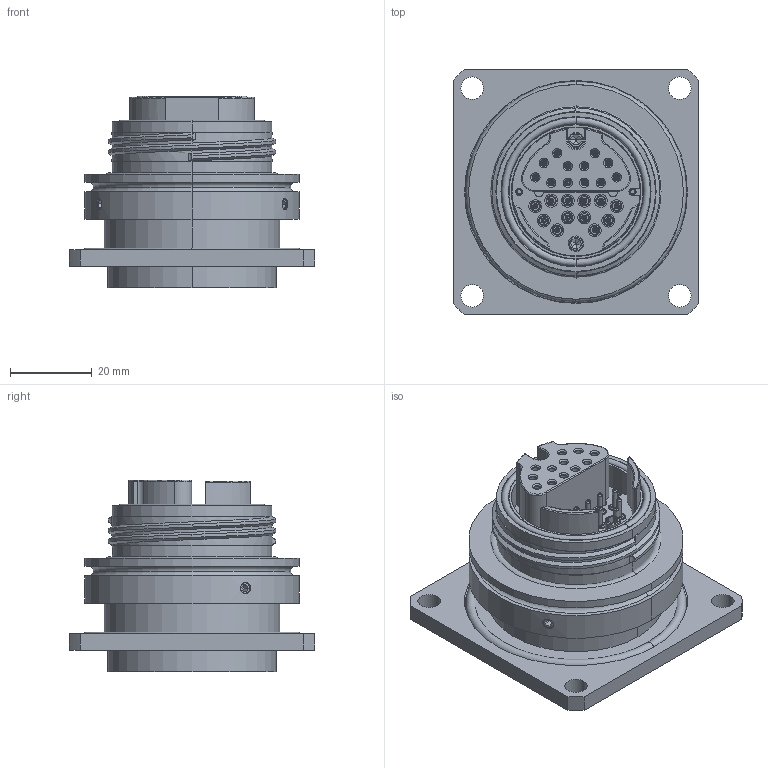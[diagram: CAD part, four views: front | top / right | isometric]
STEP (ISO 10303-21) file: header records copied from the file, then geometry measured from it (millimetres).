
FILE_DESCRIPTION (( 'STEP AP214' ), '1' );
FILE_NAME ('QFOCA3-RGFX-24X-X-S0X.STEP', '2025-08-05T21:55:24', ( '' ), ( '' ), 'SwSTEP 2.0', 'SolidWorks 2024', '' );
FILE_SCHEMA (( 'AUTOMOTIVE_DESIGN' ));
Length unit declared in the file: inch
Products named in the file (1): QFOCA3-RGFX-24X-X-S0X
Bounding box: 60.2 x 60.2 x 46.99 mm (x, y, z)
Volume: 53648.6 mm3; surface area: 30268.8 mm2
Topology: 17 solids, 28 shells, 1474 faces, 3268 edges, 1976 vertices
Faces by surface type: cylinder 580, cone 306, plane 300, torus 272, bspline 16
Entity records: 46643 total; most frequent: CARTESIAN_POINT 12760, DIRECTION 7854, ORIENTED_EDGE 6536, AXIS2_PLACEMENT_3D 3356, EDGE_CURVE 3268, VERTEX_POINT 1976, CIRCLE 1897, EDGE_LOOP 1662
